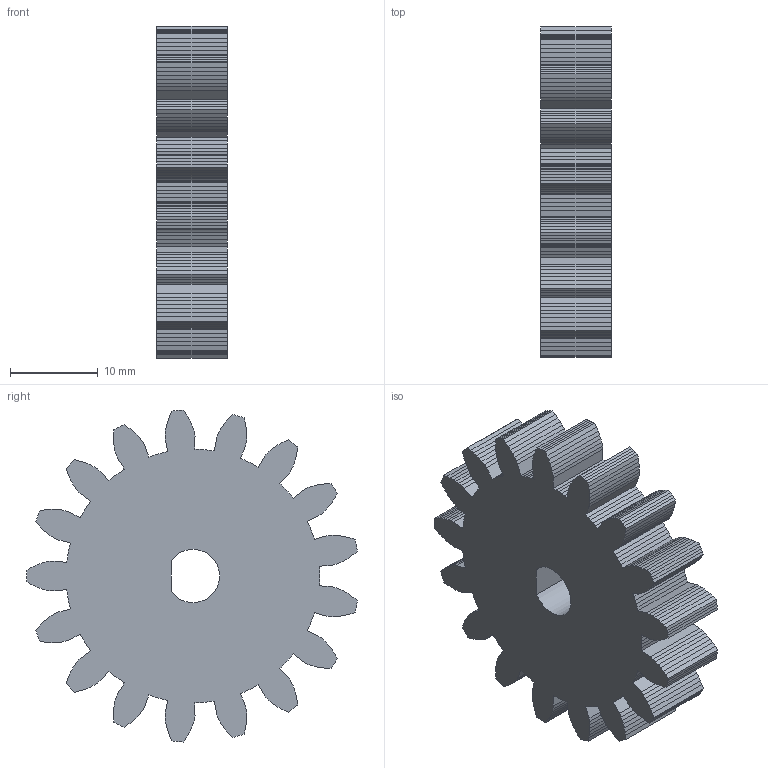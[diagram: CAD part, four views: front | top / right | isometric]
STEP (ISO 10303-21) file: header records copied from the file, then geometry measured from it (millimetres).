
FILE_DESCRIPTION(('Open CASCADE Model'),'2;1');
FILE_NAME('Open CASCADE Shape Model','2026-10-15T11:17:14',('Author'),( 'Open CASCADE'),'Open CASCADE STEP processor 7.9','Open CASCADE 7.9' ,'Unknown');
FILE_SCHEMA(('AUTOMOTIVE_DESIGN { 1 0 10303 214 1 1 1 1 }'));
Length unit declared in the file: millimetre
Products named in the file (1): Open CASCADE STEP translator 7.9 7
Bounding box: 8 x 37.79 x 37.94 mm (x, y, z)
Volume: 6819.6 mm3; surface area: 3646.9 mm2
Topology: 1 solids, 1 shells, 429 faces, 1281 edges, 854 vertices
Faces by surface type: plane 428, cylinder 1
Entity records: 30790 total; most frequent: CARTESIAN_POINT 5139, DIRECTION 4703, LINE 3839, VECTOR 3839, ORIENTED_EDGE 2562, PCURVE 2562, DEFINITIONAL_REPRESENTATION 2562, EDGE_CURVE 1281
